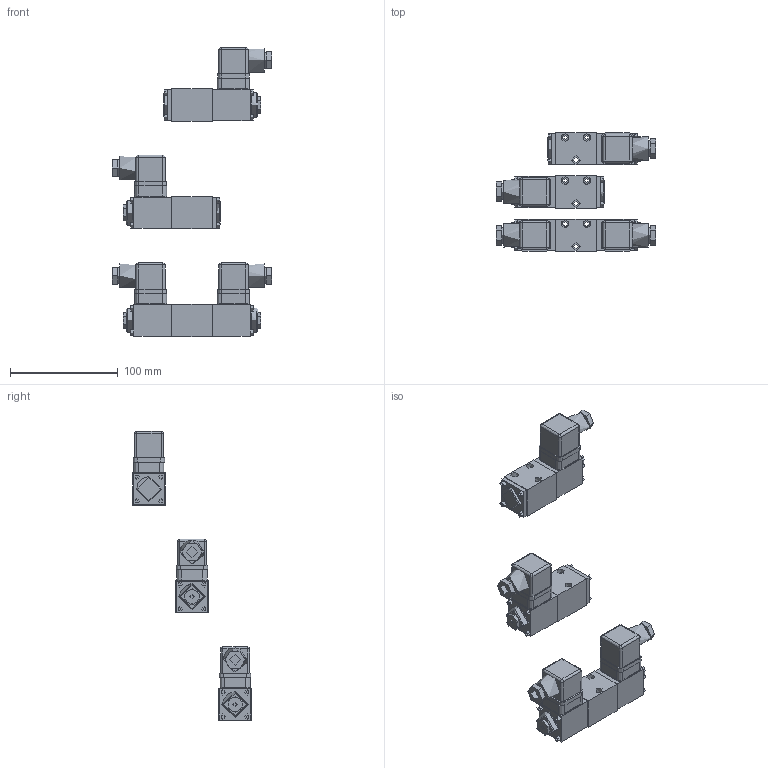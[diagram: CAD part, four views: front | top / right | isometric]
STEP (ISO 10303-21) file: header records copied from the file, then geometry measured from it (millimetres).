
FILE_DESCRIPTION(('Bauteilbeschreibung','HiCAD-Model','HiCAD-STEP-TRANSLATION','Bauteilbeschreibung'),'2;1');
FILE_NAME('K:/BM4.STP','2006-07-20T17:50:50+00:00',('Konstrukteur'),('Konstrukteur Firma GmbH'),'HiCAD3 V1210 STEP 1.6.2005','HiCAD3 V1210','confidential');
FILE_SCHEMA(('AUTOMOTIVE_DESIGN { 1 2 10303 214 0 1 1 1 }'));
Length unit declared in the file: millimetre
Products named in the file (72): BM4; BM4D3 ; A8D0D77C; AC9BECA4; B1A9C3B5; CA9517B3; CA9517B30; DICHTUNG; A7DF312F; A86115F3; IN6KTM3; IN6KTM30; IN6KTM31; IN6KTM32; IN6KTM33; D82DEE49; IN6KTM34; IN6KTM35; IN6KTM36; IN6KTM37; IN6KTM38; D82DEE490; B1A9C3B50; A7DF312F0; A86115F30; CA9517B31; CA9517B32; DICHTUNG0; BM4Z3_A; B3392718; AC9BECA40; B1A9C3B51; CA9517B33; CA9517B34; DICHTUNG1; A7DF312F1; A86115F31; IN6KTM39; IN6KTM310; IN6KTM311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
Assembly tree (71 placements, depth 6):
  BM4
    BM4D3 
      A8D0D77C
        AC9BECA4
        B1A9C3B5
          CA9517B3
          CA9517B30
            DICHTUNG
          A7DF312F
          A86115F3
        IN6KTM3
          IN6KTM30
          IN6KTM31
          IN6KTM32
          IN6KTM33
        D82DEE49
        IN6KTM34
          IN6KTM35
          IN6KTM36
          IN6KTM37
          IN6KTM38
        D82DEE490
        B1A9C3B50
          A7DF312F0
          A86115F30
          CA9517B31
          CA9517B32
            DICHTUNG0
    BM4Z3_A
      B3392718
        AC9BECA40
        B1A9C3B51
          CA9517B33
          CA9517B34
            DICHTUNG1
          A7DF312F1
          A86115F31
        IN6KTM39
          IN6KTM310
          IN6KTM311
          IN6KTM312
          IN6KTM313
        D82DEE491
        DECKEL
        DECKEL0
          IN6KTM314
            IN6KTM315
            IN6KTM316
            IN6KTM317
            IN6KTM318
    BM4Z3_B
      A928D708
        AC9BECA41
        IN6KTM319
          IN6KTM320
          IN6KTM321
          IN6KTM322
          IN6KTM323
        D82DEE492
        B1A9C3B52
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Bounding box: 148 x 110 x 268.5 mm (x, y, z)
Topology: 61 solids, 73 shells, 1051 faces, 2414 edges, 1603 vertices
Faces by surface type: plane 640, cylinder 303, cone 80, sphere 16, torus 12
Full cylindrical faces by diameter (mm): 1.5 x12, 2.5 x28, 2.9 x4, 3 x12, 3.4 x24, 4 x4, 4.2 x13, 5.5 x24, 6.5 x4, 6.8 x4, 7 x15, 7.5 x9, 8 x8, 10 x4, 12 x4, 15 x4, 20 x4, 22 x4, 23 x6, 27 x4
Entity records: 53277 total; most frequent: CARTESIAN_POINT 10003, DIRECTION 5006, ORIENTED_EDGE 4112, COLOUR_RGB 3156, PRESENTATION_STYLE_ASSIGNMENT 3156, OVER_RIDING_STYLED_ITEM 3107, CURVE_STYLE 2056, DRAUGHTING_PRE_DEFINED_CURVE_FONT 2056
